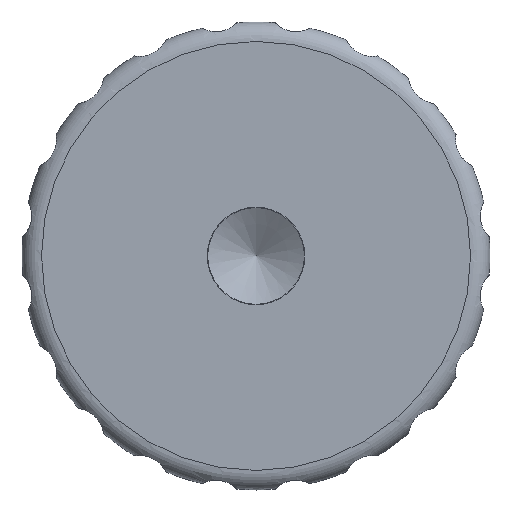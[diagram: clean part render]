
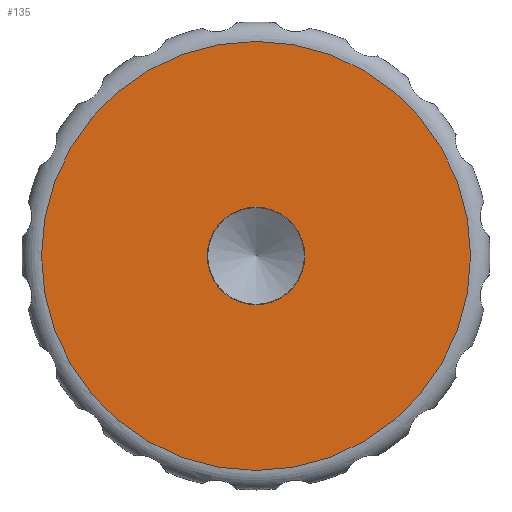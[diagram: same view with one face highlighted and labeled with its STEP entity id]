
A CAD part, left-side view. The second image highlights one B-rep face of the part: STEP entity #135.
In plain terms, the highlighted planar face has unit normal (-1, 0, 0).
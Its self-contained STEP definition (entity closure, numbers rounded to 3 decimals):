
#135 = ADVANCED_FACE( '', ( #271, #272 ), #273, .F. );
#271 = FACE_OUTER_BOUND( '', #411, .T. );
#272 = FACE_BOUND( '', #412, .T. );
#273 = PLANE( '', #413 );
#411 = EDGE_LOOP( '', ( #907 ) );
#412 = EDGE_LOOP( '', ( #908 ) );
#413 = AXIS2_PLACEMENT_3D( '', #909, #910, #911 );
#907 = ORIENTED_EDGE( '', *, *, #1077, .F. );
#908 = ORIENTED_EDGE( '', *, *, #1072, .T. );
#909 = CARTESIAN_POINT( '', ( 0., 2.5, 0. ) );
#910 = DIRECTION( '', ( 1., 0., 0. ) );
#911 = DIRECTION( '', ( 0., 0., -1. ) );
#1072 = EDGE_CURVE( '', #1332, #1332, #1333, .T. );
#1077 = EDGE_CURVE( '', #1340, #1340, #1341, .T. );
#1332 = VERTEX_POINT( '', #2433 );
#1333 = CIRCLE( '', #2434, 2.5 );
#1340 = VERTEX_POINT( '', #2441 );
#1341 = CIRCLE( '', #2442, 11. );
#2433 = CARTESIAN_POINT( '', ( 0., 0., -2.5 ) );
#2434 = AXIS2_PLACEMENT_3D( '', #2641, #2642, #2643 );
#2441 = CARTESIAN_POINT( '', ( 0., 0., -11. ) );
#2442 = AXIS2_PLACEMENT_3D( '', #2653, #2654, #2655 );
#2641 = CARTESIAN_POINT( '', ( 0., 0., 0. ) );
#2642 = DIRECTION( '', ( 1., 0., 0. ) );
#2643 = DIRECTION( '', ( 0., 0., -1. ) );
#2653 = CARTESIAN_POINT( '', ( 0., 0., 0. ) );
#2654 = DIRECTION( '', ( 1., 0., 0. ) );
#2655 = DIRECTION( '', ( 0., 0., -1. ) );
